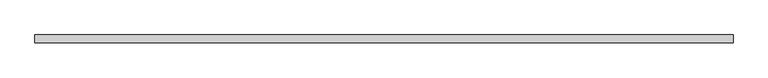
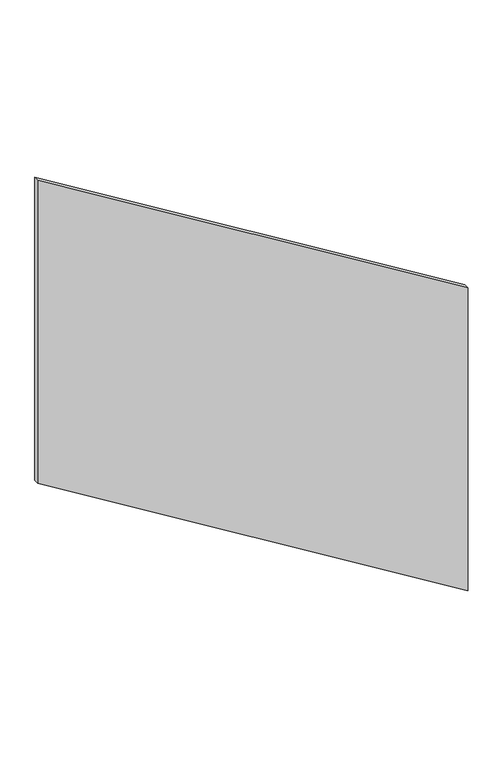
"""IFC4 building model written with IfcOpenShell, lengths in millimetres: proxy geometry, LIVERS_RZR - Glass Panel : LIVERS_RZR - Glass Panel."""

from ifc_helpers import new_model, si_unit, frame, origin, place, context, project, spatial, polyline, outline, extrude, source, transform, mapped, element, save


def building_element_proxy_bc4816d1(model_context):
    return source(origin(), model_context, "Body", "SweptSolid", [
        extrude(outline(polyline([(-278.8244169, 1199.2083426), (584.7755831, 1199.2083426), (1297.8077612, 38.1), (434.2077612, 38.1), (-278.8244169, 1199.2083426)])), frame((0.0, 1.5872342, 0.0), z_axis=(0.0, 1.0, 0.0), x_axis=(0.0, 0.0, 1.0)), (0.0, 0.0, 1.0), 12.7001962),
    ])


if __name__ == "__main__":
    model = new_model("IFC4")
    model_context = context("Model", 3, world=origin())
    ifc_project = project(units=[si_unit("LENGTHUNIT", "METRE", prefix="MILLI")], contexts=[model_context])
    site = spatial("IfcSite", under=ifc_project)
    building = spatial("IfcBuilding", under=site)
    placement = place(None, origin())
    building_element_proxy_shape = building_element_proxy_bc4816d1(model_context)
    element("IfcBuildingElementProxy", 1, Name="LIVERS_RZR - Glass Panel : LIVERS_RZR - Glass Panel", ObjectType="LIVERS_RZR - Glass Panel : LIVERS_RZR - Glass Panel", at=placement, inside=building, context=model_context, shape_type="MappedRepresentation", body=[
        mapped(building_element_proxy_shape, transform((0.0, 0.0, 0.0), x_axis=(1.0, 0.0, 0.0), y_axis=(0.0, 1.0, 0.0), z_axis=(0.0, 0.0, 1.0))),
    ])
    save(model, "model.ifc")
